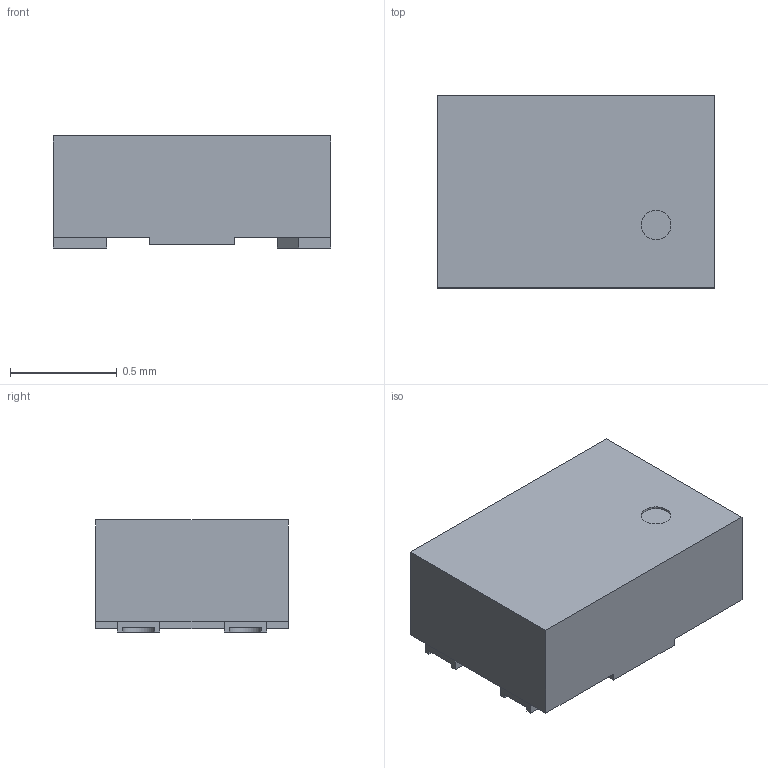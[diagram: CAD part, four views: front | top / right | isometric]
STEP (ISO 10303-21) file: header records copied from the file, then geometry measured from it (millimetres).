
FILE_DESCRIPTION (( 'STEP AP214' ), '1' );
FILE_NAME ('HGDE_M.STEP', '2009-07-22T06:42:01', ( 'アルプス電気㈱' ), ( '' ), 'SwSTEP 2.0', 'SolidWorks 2007', '' );
FILE_SCHEMA (( 'AUTOMOTIVE_DESIGN' ));
Length unit declared in the file: millimetre
Products named in the file (1): HGDE_M
Bounding box: 1.3 x 0.9 x 0.53 mm (x, y, z)
Volume: 0.6 mm3; surface area: 4.7 mm2
Topology: 1 solids, 1 shells, 52 faces, 139 edges, 90 vertices
Faces by surface type: plane 44, cylinder 8
Entity records: 1981 total; most frequent: CARTESIAN_POINT 282, ORIENTED_EDGE 278, DIRECTION 261, EDGE_CURVE 139, VECTOR 123, LINE 123, VERTEX_POINT 90, AXIS2_PLACEMENT_3D 69
